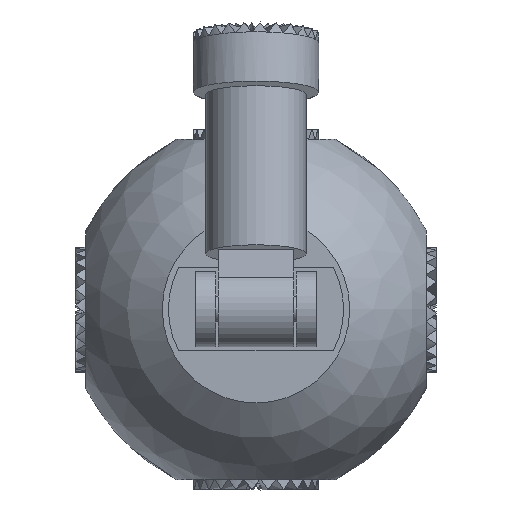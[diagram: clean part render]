
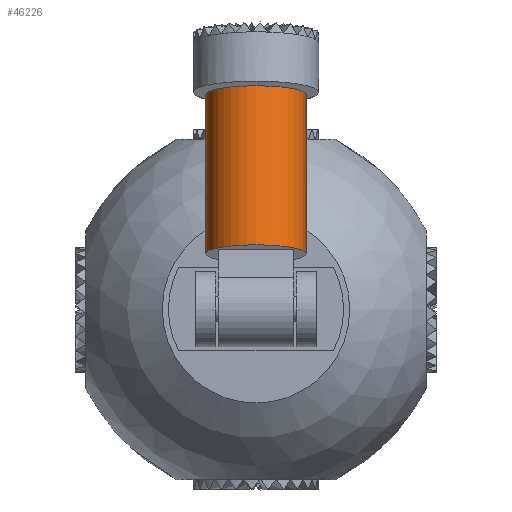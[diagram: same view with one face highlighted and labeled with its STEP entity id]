
A CAD part, top view. The second image highlights one B-rep face of the part: STEP entity #46226.
In plain terms, the highlighted cylindrical face has radius 4 mm (diameter 8 mm), a full revolution.
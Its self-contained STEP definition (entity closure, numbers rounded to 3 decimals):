
#46097 = PLANE('',#46098);
#46098 = AXIS2_PLACEMENT_3D('',#46099,#46100,#46101);
#46099 = CARTESIAN_POINT('',(0.,4.432,
    17.719));
#46100 = DIRECTION('',(0.,0.985,-0.174));
#46101 = DIRECTION('',(1.,0.,0.));
#46132 = EDGE_CURVE('',#46133,#46133,#46135,.T.);
#46133 = VERTEX_POINT('',#46134);
#46134 = CARTESIAN_POINT('',(4.,4.432,17.719));
#46135 = SURFACE_CURVE('',#46136,(#46141,#46148),.PCURVE_S1.);
#46136 = CIRCLE('',#46137,4.);
#46137 = AXIS2_PLACEMENT_3D('',#46138,#46139,#46140);
#46138 = CARTESIAN_POINT('',(0.,4.432,17.719));
#46139 = DIRECTION('',(0.,0.985,-0.174));
#46140 = DIRECTION('',(1.,0.,0.));
#46141 = PCURVE('',#46097,#46142);
#46142 = DEFINITIONAL_REPRESENTATION('',(#46143),#46147);
#46143 = CIRCLE('',#46144,4.);
#46144 = AXIS2_PLACEMENT_2D('',#46145,#46146);
#46145 = CARTESIAN_POINT('',(0.,0.));
#46146 = DIRECTION('',(1.,0.));
#46147 = ( GEOMETRIC_REPRESENTATION_CONTEXT(2) 
PARAMETRIC_REPRESENTATION_CONTEXT() REPRESENTATION_CONTEXT('2D SPACE',''
  ) );
#46148 = PCURVE('',#46149,#46154);
#46149 = CYLINDRICAL_SURFACE('',#46150,4.);
#46150 = AXIS2_PLACEMENT_3D('',#46151,#46152,#46153);
#46151 = CARTESIAN_POINT('',(0.,4.432,17.719));
#46152 = DIRECTION('',(-0.,-0.985,0.174));
#46153 = DIRECTION('',(1.,0.,0.));
#46154 = DEFINITIONAL_REPRESENTATION('',(#46155),#46159);
#46155 = LINE('',#46156,#46157);
#46156 = CARTESIAN_POINT('',(-0.,0.));
#46157 = VECTOR('',#46158,1.);
#46158 = DIRECTION('',(-1.,0.));
#46159 = ( GEOMETRIC_REPRESENTATION_CONTEXT(2) 
PARAMETRIC_REPRESENTATION_CONTEXT() REPRESENTATION_CONTEXT('2D SPACE',''
  ) );
#46226 = ADVANCED_FACE('',(#46227),#46149,.T.);
#46227 = FACE_BOUND('',#46228,.F.);
#46228 = EDGE_LOOP('',(#46229,#46252,#46279,#46280));
#46229 = ORIENTED_EDGE('',*,*,#46230,.T.);
#46230 = EDGE_CURVE('',#46133,#46231,#46233,.T.);
#46231 = VERTEX_POINT('',#46232);
#46232 = CARTESIAN_POINT('',(4.,17.136,15.479));
#46233 = SEAM_CURVE('',#46234,(#46238,#46245),.PCURVE_S1.);
#46234 = LINE('',#46235,#46236);
#46235 = CARTESIAN_POINT('',(4.,4.432,17.719));
#46236 = VECTOR('',#46237,1.);
#46237 = DIRECTION('',(0.,0.985,-0.174));
#46238 = PCURVE('',#46149,#46239);
#46239 = DEFINITIONAL_REPRESENTATION('',(#46240),#46244);
#46240 = LINE('',#46241,#46242);
#46241 = CARTESIAN_POINT('',(-0.,0.));
#46242 = VECTOR('',#46243,1.);
#46243 = DIRECTION('',(-0.,-1.));
#46244 = ( GEOMETRIC_REPRESENTATION_CONTEXT(2) 
PARAMETRIC_REPRESENTATION_CONTEXT() REPRESENTATION_CONTEXT('2D SPACE',''
  ) );
#46245 = PCURVE('',#46149,#46246);
#46246 = DEFINITIONAL_REPRESENTATION('',(#46247),#46251);
#46247 = LINE('',#46248,#46249);
#46248 = CARTESIAN_POINT('',(-6.283,0.));
#46249 = VECTOR('',#46250,1.);
#46250 = DIRECTION('',(-0.,-1.));
#46251 = ( GEOMETRIC_REPRESENTATION_CONTEXT(2) 
PARAMETRIC_REPRESENTATION_CONTEXT() REPRESENTATION_CONTEXT('2D SPACE',''
  ) );
#46252 = ORIENTED_EDGE('',*,*,#46253,.T.);
#46253 = EDGE_CURVE('',#46231,#46231,#46254,.T.);
#46254 = SURFACE_CURVE('',#46255,(#46260,#46267),.PCURVE_S1.);
#46255 = CIRCLE('',#46256,4.);
#46256 = AXIS2_PLACEMENT_3D('',#46257,#46258,#46259);
#46257 = CARTESIAN_POINT('',(0.,17.136,15.479));
#46258 = DIRECTION('',(0.,0.985,-0.174));
#46259 = DIRECTION('',(1.,0.,0.));
#46260 = PCURVE('',#46149,#46261);
#46261 = DEFINITIONAL_REPRESENTATION('',(#46262),#46266);
#46262 = LINE('',#46263,#46264);
#46263 = CARTESIAN_POINT('',(-0.,-12.9));
#46264 = VECTOR('',#46265,1.);
#46265 = DIRECTION('',(-1.,0.));
#46266 = ( GEOMETRIC_REPRESENTATION_CONTEXT(2) 
PARAMETRIC_REPRESENTATION_CONTEXT() REPRESENTATION_CONTEXT('2D SPACE',''
  ) );
#46267 = PCURVE('',#46268,#46273);
#46268 = PLANE('',#46269);
#46269 = AXIS2_PLACEMENT_3D('',#46270,#46271,#46272);
#46270 = CARTESIAN_POINT('',(0.,17.136,
    15.479));
#46271 = DIRECTION('',(0.,0.985,-0.174));
#46272 = DIRECTION('',(1.,0.,0.));
#46273 = DEFINITIONAL_REPRESENTATION('',(#46274),#46278);
#46274 = CIRCLE('',#46275,4.);
#46275 = AXIS2_PLACEMENT_2D('',#46276,#46277);
#46276 = CARTESIAN_POINT('',(0.,0.));
#46277 = DIRECTION('',(1.,0.));
#46278 = ( GEOMETRIC_REPRESENTATION_CONTEXT(2) 
PARAMETRIC_REPRESENTATION_CONTEXT() REPRESENTATION_CONTEXT('2D SPACE',''
  ) );
#46279 = ORIENTED_EDGE('',*,*,#46230,.F.);
#46280 = ORIENTED_EDGE('',*,*,#46132,.F.);
